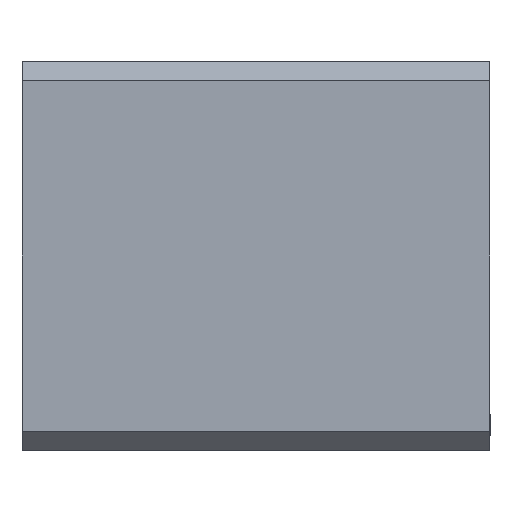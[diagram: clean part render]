
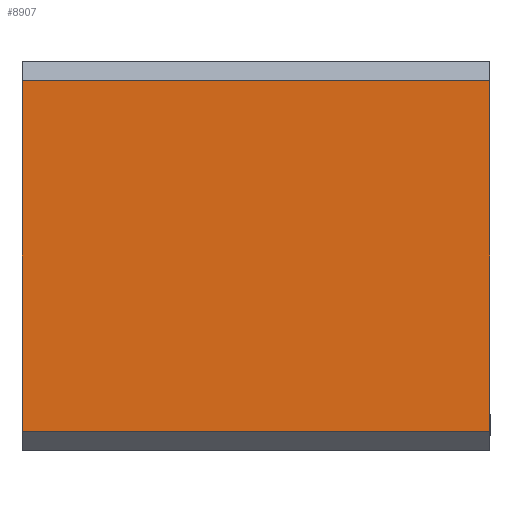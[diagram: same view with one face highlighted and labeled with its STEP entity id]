
A CAD part, front view. The second image highlights one B-rep face of the part: STEP entity #8907.
In plain terms, the highlighted planar face has unit normal (0, -1, 0).
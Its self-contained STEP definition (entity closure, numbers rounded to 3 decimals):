
#488 = VECTOR ( 'NONE', #12537, 1000. ) ;
#548 = ORIENTED_EDGE ( 'NONE', *, *, #10762, .F. ) ;
#1347 = CARTESIAN_POINT ( 'NONE',  ( 36., -30., -27. ) ) ;
#1602 = VERTEX_POINT ( 'NONE', #2218 ) ;
#2218 = CARTESIAN_POINT ( 'NONE',  ( -36., -30., 27. ) ) ;
#2779 = AXIS2_PLACEMENT_3D ( 'NONE', #11149, #4091, #12295 ) ;
#3144 = VERTEX_POINT ( 'NONE', #14700 ) ;
#3279 = LINE ( 'NONE', #5100, #6140 ) ;
#3557 = VECTOR ( 'NONE', #13337, 1000. ) ;
#3579 = CARTESIAN_POINT ( 'NONE',  ( 36., -30., 27. ) ) ;
#3776 = VERTEX_POINT ( 'NONE', #1347 ) ;
#3792 = DIRECTION ( 'NONE',  ( 0., 0., -1. ) ) ;
#3929 = LINE ( 'NONE', #12163, #3557 ) ;
#4091 = DIRECTION ( 'NONE',  ( 0., 1., 0. ) ) ;
#4381 = CARTESIAN_POINT ( 'NONE',  ( -36., -30., 27. ) ) ;
#5031 = EDGE_CURVE ( 'NONE', #1602, #3144, #3929, .T. ) ;
#5100 = CARTESIAN_POINT ( 'NONE',  ( -36., -30., -27. ) ) ;
#5984 = ORIENTED_EDGE ( 'NONE', *, *, #5031, .T. ) ;
#6140 = VECTOR ( 'NONE', #8667, 1000. ) ;
#6480 = PLANE ( 'NONE',  #2779 ) ;
#6591 = ORIENTED_EDGE ( 'NONE', *, *, #12942, .T. ) ;
#6643 = EDGE_CURVE ( 'NONE', #9928, #3776, #14998, .T. ) ;
#7646 = ORIENTED_EDGE ( 'NONE', *, *, #6643, .F. ) ;
#8667 = DIRECTION ( 'NONE',  ( 1., 0., 0. ) ) ;
#8907 = ADVANCED_FACE ( 'NONE', ( #14679 ), #6480, .F. ) ;
#9686 = LINE ( 'NONE', #4381, #488 ) ;
#9928 = VERTEX_POINT ( 'NONE', #3579 ) ;
#10762 = EDGE_CURVE ( 'NONE', #1602, #9928, #9686, .T. ) ;
#11149 = CARTESIAN_POINT ( 'NONE',  ( 36., -30., 30. ) ) ;
#11865 = CARTESIAN_POINT ( 'NONE',  ( 36., -30., 30. ) ) ;
#11931 = VECTOR ( 'NONE', #3792, 1000. ) ;
#12163 = CARTESIAN_POINT ( 'NONE',  ( -36., -30., 30. ) ) ;
#12295 = DIRECTION ( 'NONE',  ( 0., 0., 1. ) ) ;
#12537 = DIRECTION ( 'NONE',  ( 1., 0., 0. ) ) ;
#12942 = EDGE_CURVE ( 'NONE', #3144, #3776, #3279, .T. ) ;
#13337 = DIRECTION ( 'NONE',  ( 0., 0., -1. ) ) ;
#14679 = FACE_OUTER_BOUND ( 'NONE', #15023, .T. ) ;
#14700 = CARTESIAN_POINT ( 'NONE',  ( -36., -30., -27. ) ) ;
#14998 = LINE ( 'NONE', #11865, #11931 ) ;
#15023 = EDGE_LOOP ( 'NONE', ( #5984, #6591, #7646, #548 ) ) ;
